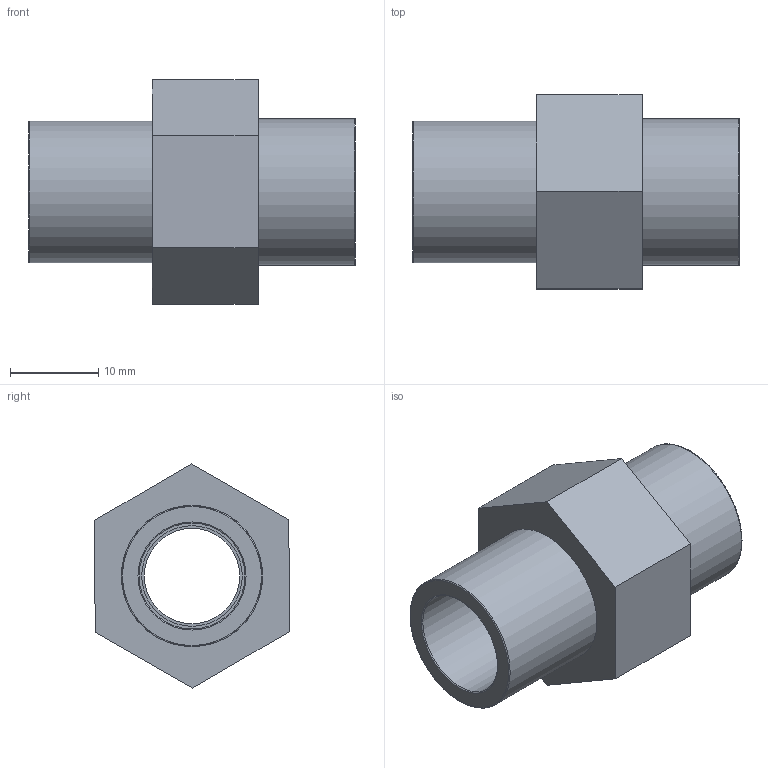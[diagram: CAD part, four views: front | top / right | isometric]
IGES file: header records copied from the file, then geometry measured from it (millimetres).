
Global section: file name: 050602016003.ipt; native system: Autodesk Inventor 2015; preprocessor: unknown; author: KIM; date: 20180927.115332; units: millimetre
Bounding box: 37 x 22.04 x 25.4 mm (x, y, z)
Volume: 6471.9 mm3; surface area: 4163 mm2
Topology: 1 solids, 1 shells, 21 faces, 55 edges, 40 vertices
Faces by surface type: plane 12, revolution 7, cylinder 2
Full cylindrical faces by diameter (mm): 16 x1, 16.662 x1
